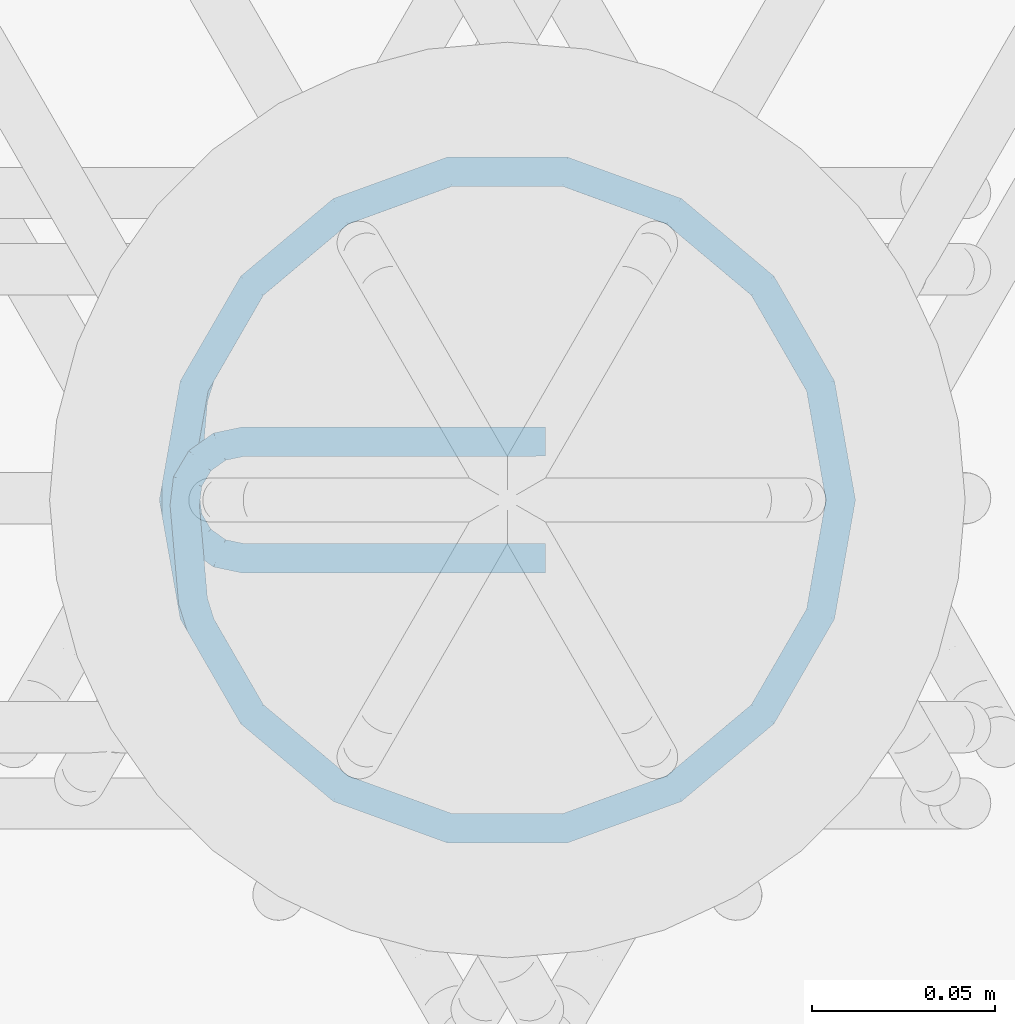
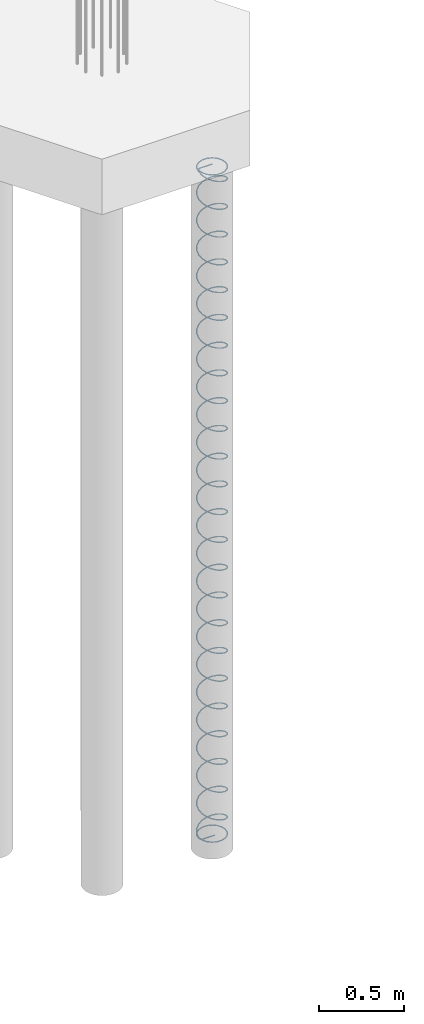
# One storey, part 14 of 23: 1 reinforcing bar.
"""IFC2X3 building model written with IfcOpenShell, lengths in metres."""

from ifc_helpers import new_model, entity, si_unit, direction, frame, origin, place, context, subcontext, project, spatial, shape, source, transform, mapped, element, save


model = new_model("IFC2X3")

# Units and contexts
model_context = context("Model", 3, precision=0.0, world=origin(), true_north=direction((0.0, 1.0)))
plan_context = context("Plan", 3, precision=0.0, world=origin(), true_north=direction((0.0, 1.0)))
body_context = subcontext(model_context, "Body", "Model", "MODEL_VIEW", scale=1.0)
ifc_project = project(units=[si_unit("LENGTHUNIT", "METRE"), si_unit("AREAUNIT", "SQUARE_METRE"), si_unit("VOLUMEUNIT", "CUBIC_METRE"), si_unit("PLANEANGLEUNIT", "RADIAN"), si_unit("THERMODYNAMICTEMPERATUREUNIT", "DEGREE_CELSIUS"), si_unit("FORCEUNIT", "NEWTON"), si_unit("MASSUNIT", "GRAM", prefix="KILO")], contexts=[model_context, plan_context])

# Site, building, storey
placement = place(None, origin())
site = spatial("IfcSite", under=ifc_project, at=placement, Name="Default Site", CompositionType="ELEMENT")
building = spatial("IfcBuilding", under=site, at=placement, Name="Default Building", CompositionType="ELEMENT")
storey_placement = place(placement, frame((0.0, 0.0, 0.0), z_axis=(1.0, 0.0, 0.0), x_axis=(0.0, 0.0, 1.0)))
storey = spatial("IfcBuildingStorey", under=building, at=storey_placement, Name="Piano 0", CompositionType="ELEMENT", Elevation=0.0)

# Reinforcing bar
shared_shape = source(origin(), body_context, None, "AdvancedSweptSolid", [
    entity("IfcSweptDiskSolid", entity("IfcCompositeCurve", [entity("IfcCompositeCurveSegment", "CONTINUOUS", True, entity("IfcPolyline", [entity("IfcCartesianPoint", [0.0, 0.0, 0.0]), entity("IfcCartesianPoint", [-0.08255, 0.0, 0.0]), entity("IfcCartesianPoint", [-0.088992, -0.001354, -1.3e-05]), entity("IfcCartesianPoint", [-0.094343, -0.005186, -4.9e-05]), entity("IfcCartesianPoint", [-0.097699, -0.010849, -0.000103]), entity("IfcCartesianPoint", [-0.09849, -0.017383, -0.000164]), entity("IfcCartesianPoint", [-0.096222, -0.043503, -0.000411]), entity("IfcCartesianPoint", [-0.094139, -0.050118, -0.000494]), entity("IfcCartesianPoint", [-0.080113, -0.074411, -0.000889]), entity("IfcCartesianPoint", [-0.055903, -0.094726, -0.001333]), entity("IfcCartesianPoint", [-0.026205, -0.105535, -0.001778]), entity("IfcCartesianPoint", [0.005399, -0.105535, -0.002222]), entity("IfcCartesianPoint", [0.035097, -0.094726, -0.002667]), entity("IfcCartesianPoint", [0.059307, -0.074411, -0.003111]), entity("IfcCartesianPoint", [0.075109, -0.047042, -0.003556]), entity("IfcCartesianPoint", [0.080597, -0.015918, -0.004]), entity("IfcCartesianPoint", [0.075109, 0.015206, -0.004444]), entity("IfcCartesianPoint", [0.059307, 0.042576, -0.004889]), entity("IfcCartesianPoint", [0.035097, 0.062891, -0.005333]), entity("IfcCartesianPoint", [0.005399, 0.0737, -0.005778]), entity("IfcCartesianPoint", [-0.026205, 0.0737, -0.006222]), entity("IfcCartesianPoint", [-0.055903, 0.062891, -0.006667]), entity("IfcCartesianPoint", [-0.080113, 0.042576, -0.007111]), entity("IfcCartesianPoint", [-0.095915, 0.015206, -0.007556]), entity("IfcCartesianPoint", [-0.100736, -0.012136, -0.007946]), entity("IfcCartesianPoint", [-0.100774, -0.019485, -0.009274]), entity("IfcCartesianPoint", [-0.095915, -0.047042, -0.019111]), entity("IfcCartesianPoint", [-0.080113, -0.074411, -0.030222]), entity("IfcCartesianPoint", [-0.055903, -0.094726, -0.041333]), entity("IfcCartesianPoint", [-0.026205, -0.105535, -0.052444]), entity("IfcCartesianPoint", [0.005399, -0.105535, -0.063556]), entity("IfcCartesianPoint", [0.035097, -0.094726, -0.074667]), entity("IfcCartesianPoint", [0.059307, -0.074411, -0.085778]), entity("IfcCartesianPoint", [0.075109, -0.047042, -0.096889]), entity("IfcCartesianPoint", [0.080597, -0.015918, -0.108]), entity("IfcCartesianPoint", [0.075109, 0.015206, -0.119111]), entity("IfcCartesianPoint", [0.059307, 0.042576, -0.130222]), entity("IfcCartesianPoint", [0.035097, 0.062891, -0.141333]), entity("IfcCartesianPoint", [0.005399, 0.0737, -0.152444]), entity("IfcCartesianPoint", [-0.026205, 0.0737, -0.163556]), entity("IfcCartesianPoint", [-0.055903, 0.062891, -0.174667]), entity("IfcCartesianPoint", [-0.080113, 0.042576, -0.185778]), entity("IfcCartesianPoint", [-0.095915, 0.015206, -0.196889]), entity("IfcCartesianPoint", [-0.101403, -0.015918, -0.208]), entity("IfcCartesianPoint", [-0.095915, -0.047042, -0.219111]), entity("IfcCartesianPoint", [-0.080113, -0.074411, -0.230222]), entity("IfcCartesianPoint", [-0.055903, -0.094726, -0.241333]), entity("IfcCartesianPoint", [-0.026205, -0.105535, -0.252444]), entity("IfcCartesianPoint", [0.005399, -0.105535, -0.263556]), entity("IfcCartesianPoint", [0.035097, -0.094726, -0.274667]), entity("IfcCartesianPoint", [0.059307, -0.074411, -0.285778]), entity("IfcCartesianPoint", [0.075109, -0.047042, -0.296889]), entity("IfcCartesianPoint", [0.080597, -0.015918, -0.308]), entity("IfcCartesianPoint", [0.075109, 0.015206, -0.319111]), entity("IfcCartesianPoint", [0.059307, 0.042576, -0.330222]), entity("IfcCartesianPoint", [0.035097, 0.062891, -0.341333]), entity("IfcCartesianPoint", [0.005399, 0.0737, -0.352444]), entity("IfcCartesianPoint", [-0.026205, 0.0737, -0.363556]), entity("IfcCartesianPoint", [-0.055903, 0.062891, -0.374667]), entity("IfcCartesianPoint", [-0.080113, 0.042576, -0.385778]), entity("IfcCartesianPoint", [-0.095915, 0.015206, -0.396889]), entity("IfcCartesianPoint", [-0.101403, -0.015918, -0.408]), entity("IfcCartesianPoint", [-0.095915, -0.047042, -0.419111]), entity("IfcCartesianPoint", [-0.080113, -0.074411, -0.430222]), entity("IfcCartesianPoint", [-0.055903, -0.094726, -0.441333]), entity("IfcCartesianPoint", [-0.026205, -0.105535, -0.452444]), entity("IfcCartesianPoint", [0.005399, -0.105535, -0.463556]), entity("IfcCartesianPoint", [0.035097, -0.094726, -0.474667]), entity("IfcCartesianPoint", [0.059307, -0.074411, -0.485778]), entity("IfcCartesianPoint", [0.075109, -0.047042, -0.496889]), entity("IfcCartesianPoint", [0.080597, -0.015918, -0.508]), entity("IfcCartesianPoint", [0.075109, 0.015206, -0.519111]), entity("IfcCartesianPoint", [0.059307, 0.042576, -0.530222]), entity("IfcCartesianPoint", [0.035097, 0.062891, -0.541333]), entity("IfcCartesianPoint", [0.005399, 0.0737, -0.552444]), entity("IfcCartesianPoint", [-0.026205, 0.0737, -0.563556]), entity("IfcCartesianPoint", [-0.055903, 0.062891, -0.574667]), entity("IfcCartesianPoint", [-0.080113, 0.042576, -0.585778]), entity("IfcCartesianPoint", [-0.095915, 0.015206, -0.596889]), entity("IfcCartesianPoint", [-0.101403, -0.015918, -0.608]), entity("IfcCartesianPoint", [-0.095915, -0.047042, -0.619111]), entity("IfcCartesianPoint", [-0.080113, -0.074411, -0.630222]), entity("IfcCartesianPoint", [-0.055903, -0.094726, -0.641333]), entity("IfcCartesianPoint", [-0.026205, -0.105535, -0.652444]), entity("IfcCartesianPoint", [0.005399, -0.105535, -0.663556]), entity("IfcCartesianPoint", [0.035097, -0.094726, -0.674667]), entity("IfcCartesianPoint", [0.059307, -0.074411, -0.685778]), entity("IfcCartesianPoint", [0.075109, -0.047042, -0.696889]), entity("IfcCartesianPoint", [0.080597, -0.015918, -0.708]), entity("IfcCartesianPoint", [0.075109, 0.015206, -0.719111]), entity("IfcCartesianPoint", [0.059307, 0.042576, -0.730222]), entity("IfcCartesianPoint", [0.035097, 0.062891, -0.741333]), entity("IfcCartesianPoint", [0.005399, 0.0737, -0.752444]), entity("IfcCartesianPoint", [-0.026205, 0.0737, -0.763556]), entity("IfcCartesianPoint", [-0.055903, 0.062891, -0.774667]), entity("IfcCartesianPoint", [-0.080113, 0.042576, -0.785778]), entity("IfcCartesianPoint", [-0.095915, 0.015206, -0.796889]), entity("IfcCartesianPoint", [-0.101403, -0.015918, -0.808]), entity("IfcCartesianPoint", [-0.095915, -0.047042, -0.819111]), entity("IfcCartesianPoint", [-0.080113, -0.074411, -0.830222]), entity("IfcCartesianPoint", [-0.055903, -0.094726, -0.841333]), entity("IfcCartesianPoint", [-0.026205, -0.105535, -0.852444]), entity("IfcCartesianPoint", [0.005399, -0.105535, -0.863556]), entity("IfcCartesianPoint", [0.035097, -0.094726, -0.874667]), entity("IfcCartesianPoint", [0.059307, -0.074411, -0.885778]), entity("IfcCartesianPoint", [0.075109, -0.047042, -0.896889]), entity("IfcCartesianPoint", [0.080597, -0.015918, -0.908]), entity("IfcCartesianPoint", [0.075109, 0.015206, -0.919111]), entity("IfcCartesianPoint", [0.059307, 0.042576, -0.930222]), entity("IfcCartesianPoint", [0.035097, 0.062891, -0.941333]), entity("IfcCartesianPoint", [0.005399, 0.0737, -0.952444]), entity("IfcCartesianPoint", [-0.026205, 0.0737, -0.963556]), entity("IfcCartesianPoint", [-0.055903, 0.062891, -0.974667]), entity("IfcCartesianPoint", [-0.080113, 0.042576, -0.985778]), entity("IfcCartesianPoint", [-0.095915, 0.015206, -0.996889]), entity("IfcCartesianPoint", [-0.101403, -0.015918, -1.008]), entity("IfcCartesianPoint", [-0.095915, -0.047042, -1.019111]), entity("IfcCartesianPoint", [-0.080113, -0.074411, -1.030222]), entity("IfcCartesianPoint", [-0.055903, -0.094726, -1.041333]), entity("IfcCartesianPoint", [-0.026205, -0.105535, -1.052444]), entity("IfcCartesianPoint", [0.005399, -0.105535, -1.063556]), entity("IfcCartesianPoint", [0.035097, -0.094726, -1.074667]), entity("IfcCartesianPoint", [0.059307, -0.074411, -1.085778]), entity("IfcCartesianPoint", [0.075109, -0.047042, -1.096889]), entity("IfcCartesianPoint", [0.080597, -0.015918, -1.108]), entity("IfcCartesianPoint", [0.075109, 0.015206, -1.119111]), entity("IfcCartesianPoint", [0.059307, 0.042576, -1.130222]), entity("IfcCartesianPoint", [0.035097, 0.062891, -1.141333]), entity("IfcCartesianPoint", [0.005399, 0.0737, -1.152444]), entity("IfcCartesianPoint", [-0.026205, 0.0737, -1.163556]), entity("IfcCartesianPoint", [-0.055903, 0.062891, -1.174667]), entity("IfcCartesianPoint", [-0.080113, 0.042576, -1.185778]), entity("IfcCartesianPoint", [-0.095915, 0.015206, -1.196889]), entity("IfcCartesianPoint", [-0.101403, -0.015918, -1.208]), entity("IfcCartesianPoint", [-0.095915, -0.047042, -1.219111]), entity("IfcCartesianPoint", [-0.080113, -0.074411, -1.230222]), entity("IfcCartesianPoint", [-0.055903, -0.094726, -1.241333]), entity("IfcCartesianPoint", [-0.026205, -0.105535, -1.252444]), entity("IfcCartesianPoint", [0.005399, -0.105535, -1.263556]), entity("IfcCartesianPoint", [0.035097, -0.094726, -1.274667]), entity("IfcCartesianPoint", [0.059307, -0.074411, -1.285778]), entity("IfcCartesianPoint", [0.075109, -0.047042, -1.296889]), entity("IfcCartesianPoint", [0.080597, -0.015918, -1.308]), entity("IfcCartesianPoint", [0.075109, 0.015206, -1.319111]), entity("IfcCartesianPoint", [0.059307, 0.042576, -1.330222]), entity("IfcCartesianPoint", [0.035097, 0.062891, -1.341333]), entity("IfcCartesianPoint", [0.005399, 0.0737, -1.352444]), entity("IfcCartesianPoint", [-0.026205, 0.0737, -1.363556]), entity("IfcCartesianPoint", [-0.055903, 0.062891, -1.374667]), entity("IfcCartesianPoint", [-0.080113, 0.042576, -1.385778]), entity("IfcCartesianPoint", [-0.095915, 0.015206, -1.396889]), entity("IfcCartesianPoint", [-0.101403, -0.015918, -1.408]), entity("IfcCartesianPoint", [-0.095915, -0.047042, -1.419111]), entity("IfcCartesianPoint", [-0.080113, -0.074411, -1.430222]), entity("IfcCartesianPoint", [-0.055903, -0.094726, -1.441333]), entity("IfcCartesianPoint", [-0.026205, -0.105535, -1.452444]), entity("IfcCartesianPoint", [0.005399, -0.105535, -1.463556]), entity("IfcCartesianPoint", [0.035097, -0.094726, -1.474667]), entity("IfcCartesianPoint", [0.059307, -0.074411, -1.485778]), entity("IfcCartesianPoint", [0.075109, -0.047042, -1.496889]), entity("IfcCartesianPoint", [0.080597, -0.015918, -1.508]), entity("IfcCartesianPoint", [0.075109, 0.015206, -1.519111]), entity("IfcCartesianPoint", [0.059307, 0.042576, -1.530222]), entity("IfcCartesianPoint", [0.035097, 0.062891, -1.541333]), entity("IfcCartesianPoint", [0.005399, 0.0737, -1.552444]), entity("IfcCartesianPoint", [-0.026205, 0.0737, -1.563556]), entity("IfcCartesianPoint", [-0.055903, 0.062891, -1.574667]), entity("IfcCartesianPoint", [-0.080113, 0.042576, -1.585778]), entity("IfcCartesianPoint", [-0.095915, 0.015206, -1.596889]), entity("IfcCartesianPoint", [-0.101403, -0.015918, -1.608]), entity("IfcCartesianPoint", [-0.095915, -0.047042, -1.619111]), entity("IfcCartesianPoint", [-0.080113, -0.074411, -1.630222]), entity("IfcCartesianPoint", [-0.055903, -0.094726, -1.641333]), entity("IfcCartesianPoint", [-0.026205, -0.105535, -1.652444]), entity("IfcCartesianPoint", [0.005399, -0.105535, -1.663556]), entity("IfcCartesianPoint", [0.035097, -0.094726, -1.674667]), entity("IfcCartesianPoint", [0.059307, -0.074411, -1.685778]), entity("IfcCartesianPoint", [0.075109, -0.047042, -1.696889]), entity("IfcCartesianPoint", [0.080597, -0.015918, -1.708]), entity("IfcCartesianPoint", [0.075109, 0.015206, -1.719111]), entity("IfcCartesianPoint", [0.059307, 0.042576, -1.730222]), entity("IfcCartesianPoint", [0.035097, 0.062891, -1.741333]), entity("IfcCartesianPoint", [0.005399, 0.0737, -1.752444]), entity("IfcCartesianPoint", [-0.026205, 0.0737, -1.763556]), entity("IfcCartesianPoint", [-0.055903, 0.062891, -1.774667]), entity("IfcCartesianPoint", [-0.080113, 0.042576, -1.785778]), entity("IfcCartesianPoint", [-0.095915, 0.015206, -1.796889]), entity("IfcCartesianPoint", [-0.101403, -0.015918, -1.808]), entity("IfcCartesianPoint", [-0.095915, -0.047042, -1.819111]), entity("IfcCartesianPoint", [-0.080113, -0.074411, -1.830222]), entity("IfcCartesianPoint", [-0.055903, -0.094726, -1.841333]), entity("IfcCartesianPoint", [-0.026205, -0.105535, -1.852444]), entity("IfcCartesianPoint", [0.005399, -0.105535, -1.863556]), entity("IfcCartesianPoint", [0.035097, -0.094726, -1.874667]), entity("IfcCartesianPoint", [0.059307, -0.074411, -1.885778]), entity("IfcCartesianPoint", [0.075109, -0.047042, -1.896889]), entity("IfcCartesianPoint", [0.080597, -0.015918, -1.908]), entity("IfcCartesianPoint", [0.075109, 0.015206, -1.919111]), entity("IfcCartesianPoint", [0.059307, 0.042576, -1.930222]), entity("IfcCartesianPoint", [0.035097, 0.062891, -1.941333]), entity("IfcCartesianPoint", [0.005399, 0.0737, -1.952444]), entity("IfcCartesianPoint", [-0.026205, 0.0737, -1.963556]), entity("IfcCartesianPoint", [-0.055903, 0.062891, -1.974667]), entity("IfcCartesianPoint", [-0.080113, 0.042576, -1.985778]), entity("IfcCartesianPoint", [-0.095915, 0.015206, -1.996889]), entity("IfcCartesianPoint", [-0.101403, -0.015918, -2.008]), entity("IfcCartesianPoint", [-0.095915, -0.047042, -2.019111]), entity("IfcCartesianPoint", [-0.080113, -0.074411, -2.030222]), entity("IfcCartesianPoint", [-0.055903, -0.094726, -2.041333]), entity("IfcCartesianPoint", [-0.026205, -0.105535, -2.052444]), entity("IfcCartesianPoint", [0.005399, -0.105535, -2.063556]), entity("IfcCartesianPoint", [0.035097, -0.094726, -2.074667]), entity("IfcCartesianPoint", [0.059307, -0.074411, -2.085778]), entity("IfcCartesianPoint", [0.075109, -0.047042, -2.096889]), entity("IfcCartesianPoint", [0.080597, -0.015918, -2.108]), entity("IfcCartesianPoint", [0.075109, 0.015206, -2.119111]), entity("IfcCartesianPoint", [0.059307, 0.042576, -2.130222]), entity("IfcCartesianPoint", [0.035097, 0.062891, -2.141333]), entity("IfcCartesianPoint", [0.005399, 0.0737, -2.152444]), entity("IfcCartesianPoint", [-0.026205, 0.0737, -2.163556]), entity("IfcCartesianPoint", [-0.055903, 0.062891, -2.174667]), entity("IfcCartesianPoint", [-0.080113, 0.042576, -2.185778]), entity("IfcCartesianPoint", [-0.095915, 0.015206, -2.196889]), entity("IfcCartesianPoint", [-0.101403, -0.015918, -2.208]), entity("IfcCartesianPoint", [-0.095915, -0.047042, -2.219111]), entity("IfcCartesianPoint", [-0.080113, -0.074411, -2.230222]), entity("IfcCartesianPoint", [-0.055903, -0.094726, -2.241333]), entity("IfcCartesianPoint", [-0.026205, -0.105535, -2.252444]), entity("IfcCartesianPoint", [0.005399, -0.105535, -2.263556]), entity("IfcCartesianPoint", [0.035097, -0.094726, -2.274667]), entity("IfcCartesianPoint", [0.059307, -0.074411, -2.285778]), entity("IfcCartesianPoint", [0.075109, -0.047042, -2.296889]), entity("IfcCartesianPoint", [0.080597, -0.015918, -2.308]), entity("IfcCartesianPoint", [0.075109, 0.015206, -2.319111]), entity("IfcCartesianPoint", [0.059307, 0.042576, -2.330222]), entity("IfcCartesianPoint", [0.035097, 0.062891, -2.341333]), entity("IfcCartesianPoint", [0.005399, 0.0737, -2.352444]), entity("IfcCartesianPoint", [-0.026205, 0.0737, -2.363556]), entity("IfcCartesianPoint", [-0.055903, 0.062891, -2.374667]), entity("IfcCartesianPoint", [-0.080113, 0.042576, -2.385778]), entity("IfcCartesianPoint", [-0.095915, 0.015206, -2.396889]), entity("IfcCartesianPoint", [-0.101403, -0.015918, -2.408]), entity("IfcCartesianPoint", [-0.095915, -0.047042, -2.419111]), entity("IfcCartesianPoint", [-0.080113, -0.074411, -2.430222]), entity("IfcCartesianPoint", [-0.055903, -0.094726, -2.441333]), entity("IfcCartesianPoint", [-0.026205, -0.105535, -2.452444]), entity("IfcCartesianPoint", [0.005399, -0.105535, -2.463556]), entity("IfcCartesianPoint", [0.035097, -0.094726, -2.474667]), entity("IfcCartesianPoint", [0.059307, -0.074411, -2.485778]), entity("IfcCartesianPoint", [0.075109, -0.047042, -2.496889]), entity("IfcCartesianPoint", [0.080597, -0.015918, -2.508]), entity("IfcCartesianPoint", [0.075109, 0.015206, -2.519111]), entity("IfcCartesianPoint", [0.059307, 0.042576, -2.530222]), entity("IfcCartesianPoint", [0.035097, 0.062891, -2.541333]), entity("IfcCartesianPoint", [0.005399, 0.0737, -2.552444]), entity("IfcCartesianPoint", [-0.026205, 0.0737, -2.563556]), entity("IfcCartesianPoint", [-0.055903, 0.062891, -2.574667]), entity("IfcCartesianPoint", [-0.080113, 0.042576, -2.585778]), entity("IfcCartesianPoint", [-0.095915, 0.015206, -2.596889]), entity("IfcCartesianPoint", [-0.101403, -0.015918, -2.608]), entity("IfcCartesianPoint", [-0.095915, -0.047042, -2.619111]), entity("IfcCartesianPoint", [-0.080113, -0.074411, -2.630222]), entity("IfcCartesianPoint", [-0.055903, -0.094726, -2.641333]), entity("IfcCartesianPoint", [-0.026205, -0.105535, -2.652444]), entity("IfcCartesianPoint", [0.005399, -0.105535, -2.663556]), entity("IfcCartesianPoint", [0.035097, -0.094726, -2.674667]), entity("IfcCartesianPoint", [0.059307, -0.074411, -2.685778]), entity("IfcCartesianPoint", [0.075109, -0.047042, -2.696889]), entity("IfcCartesianPoint", [0.080597, -0.015918, -2.708]), entity("IfcCartesianPoint", [0.075109, 0.015206, -2.719111]), entity("IfcCartesianPoint", [0.059307, 0.042576, -2.730222]), entity("IfcCartesianPoint", [0.035097, 0.062891, -2.741333]), entity("IfcCartesianPoint", [0.005399, 0.0737, -2.752444]), entity("IfcCartesianPoint", [-0.026205, 0.0737, -2.763556]), entity("IfcCartesianPoint", [-0.055903, 0.062891, -2.774667]), entity("IfcCartesianPoint", [-0.080113, 0.042576, -2.785778]), entity("IfcCartesianPoint", [-0.095915, 0.015206, -2.796889]), entity("IfcCartesianPoint", [-0.101403, -0.015918, -2.808]), entity("IfcCartesianPoint", [-0.095915, -0.047042, -2.819111]), entity("IfcCartesianPoint", [-0.080113, -0.074411, -2.830222]), entity("IfcCartesianPoint", [-0.055903, -0.094726, -2.841333]), entity("IfcCartesianPoint", [-0.026205, -0.105535, -2.852444]), entity("IfcCartesianPoint", [0.005399, -0.105535, -2.863556]), entity("IfcCartesianPoint", [0.035097, -0.094726, -2.874667]), entity("IfcCartesianPoint", [0.059307, -0.074411, -2.885778]), entity("IfcCartesianPoint", [0.075109, -0.047042, -2.896889]), entity("IfcCartesianPoint", [0.080597, -0.015918, -2.908]), entity("IfcCartesianPoint", [0.075109, 0.015206, -2.919111]), entity("IfcCartesianPoint", [0.059307, 0.042576, -2.930222]), entity("IfcCartesianPoint", [0.035097, 0.062891, -2.941333]), entity("IfcCartesianPoint", [0.005399, 0.0737, -2.952444]), entity("IfcCartesianPoint", [-0.026205, 0.0737, -2.963556]), entity("IfcCartesianPoint", [-0.055903, 0.062891, -2.974667]), entity("IfcCartesianPoint", [-0.080113, 0.042576, -2.985778]), entity("IfcCartesianPoint", [-0.095915, 0.015206, -2.996889]), entity("IfcCartesianPoint", [-0.101403, -0.015918, -3.008]), entity("IfcCartesianPoint", [-0.095915, -0.047042, -3.019111]), entity("IfcCartesianPoint", [-0.080113, -0.074411, -3.030222]), entity("IfcCartesianPoint", [-0.055903, -0.094726, -3.041333]), entity("IfcCartesianPoint", [-0.026205, -0.105535, -3.052444]), entity("IfcCartesianPoint", [0.005399, -0.105535, -3.063556]), entity("IfcCartesianPoint", [0.035097, -0.094726, -3.074667]), entity("IfcCartesianPoint", [0.059307, -0.074411, -3.085778]), entity("IfcCartesianPoint", [0.075109, -0.047042, -3.096889]), entity("IfcCartesianPoint", [0.080597, -0.015918, -3.108]), entity("IfcCartesianPoint", [0.075109, 0.015206, -3.119111]), entity("IfcCartesianPoint", [0.059307, 0.042576, -3.130222]), entity("IfcCartesianPoint", [0.035097, 0.062891, -3.141333]), entity("IfcCartesianPoint", [0.005399, 0.0737, -3.152444]), entity("IfcCartesianPoint", [-0.026205, 0.0737, -3.163556]), entity("IfcCartesianPoint", [-0.055903, 0.062891, -3.174667]), entity("IfcCartesianPoint", [-0.080113, 0.042576, -3.185778]), entity("IfcCartesianPoint", [-0.095915, 0.015206, -3.196889]), entity("IfcCartesianPoint", [-0.101403, -0.015918, -3.208]), entity("IfcCartesianPoint", [-0.095915, -0.047042, -3.219111]), entity("IfcCartesianPoint", [-0.080113, -0.074411, -3.230222]), entity("IfcCartesianPoint", [-0.055903, -0.094726, -3.241333]), entity("IfcCartesianPoint", [-0.026205, -0.105535, -3.252444]), entity("IfcCartesianPoint", [0.005399, -0.105535, -3.263556]), entity("IfcCartesianPoint", [0.035097, -0.094726, -3.274667]), entity("IfcCartesianPoint", [0.059307, -0.074411, -3.285778]), entity("IfcCartesianPoint", [0.075109, -0.047042, -3.296889]), entity("IfcCartesianPoint", [0.080597, -0.015918, -3.308]), entity("IfcCartesianPoint", [0.075109, 0.015206, -3.319111]), entity("IfcCartesianPoint", [0.059307, 0.042576, -3.330222]), entity("IfcCartesianPoint", [0.035097, 0.062891, -3.341333]), entity("IfcCartesianPoint", [0.005399, 0.0737, -3.352444]), entity("IfcCartesianPoint", [-0.026205, 0.0737, -3.363556]), entity("IfcCartesianPoint", [-0.055903, 0.062891, -3.374667]), entity("IfcCartesianPoint", [-0.080113, 0.042576, -3.385778]), entity("IfcCartesianPoint", [-0.095915, 0.015206, -3.396889]), entity("IfcCartesianPoint", [-0.101403, -0.015918, -3.408]), entity("IfcCartesianPoint", [-0.095915, -0.047042, -3.419111]), entity("IfcCartesianPoint", [-0.080113, -0.074411, -3.430222]), entity("IfcCartesianPoint", [-0.055903, -0.094726, -3.441333]), entity("IfcCartesianPoint", [-0.026205, -0.105535, -3.452444]), entity("IfcCartesianPoint", [0.005399, -0.105535, -3.463556]), entity("IfcCartesianPoint", [0.035097, -0.094726, -3.474667]), entity("IfcCartesianPoint", [0.059307, -0.074411, -3.485778]), entity("IfcCartesianPoint", [0.075109, -0.047042, -3.496889]), entity("IfcCartesianPoint", [0.080597, -0.015918, -3.508]), entity("IfcCartesianPoint", [0.075109, 0.015206, -3.519111]), entity("IfcCartesianPoint", [0.059307, 0.042576, -3.530222]), entity("IfcCartesianPoint", [0.035097, 0.062891, -3.541333]), entity("IfcCartesianPoint", [0.005399, 0.0737, -3.552444]), entity("IfcCartesianPoint", [-0.026205, 0.0737, -3.563556]), entity("IfcCartesianPoint", [-0.055903, 0.062891, -3.574667]), entity("IfcCartesianPoint", [-0.080113, 0.042576, -3.585778]), entity("IfcCartesianPoint", [-0.095915, 0.015206, -3.596889]), entity("IfcCartesianPoint", [-0.101403, -0.015918, -3.608]), entity("IfcCartesianPoint", [-0.095915, -0.047042, -3.619111]), entity("IfcCartesianPoint", [-0.080113, -0.074411, -3.630222]), entity("IfcCartesianPoint", [-0.055903, -0.094726, -3.641333]), entity("IfcCartesianPoint", [-0.026205, -0.105535, -3.652444]), entity("IfcCartesianPoint", [0.005399, -0.105535, -3.663556]), entity("IfcCartesianPoint", [0.035097, -0.094726, -3.674667]), entity("IfcCartesianPoint", [0.059307, -0.074411, -3.685778]), entity("IfcCartesianPoint", [0.075109, -0.047042, -3.696889]), entity("IfcCartesianPoint", [0.080597, -0.015918, -3.708]), entity("IfcCartesianPoint", [0.075109, 0.015206, -3.719111]), entity("IfcCartesianPoint", [0.059307, 0.042576, -3.730222]), entity("IfcCartesianPoint", [0.035097, 0.062891, -3.741333]), entity("IfcCartesianPoint", [0.005399, 0.0737, -3.752444]), entity("IfcCartesianPoint", [-0.026205, 0.0737, -3.763556]), entity("IfcCartesianPoint", [-0.055903, 0.062891, -3.774667]), entity("IfcCartesianPoint", [-0.080113, 0.042576, -3.785778]), entity("IfcCartesianPoint", [-0.095915, 0.015206, -3.796889]), entity("IfcCartesianPoint", [-0.101403, -0.015918, -3.808]), entity("IfcCartesianPoint", [-0.095915, -0.047042, -3.819111]), entity("IfcCartesianPoint", [-0.080113, -0.074411, -3.830222]), entity("IfcCartesianPoint", [-0.055903, -0.094726, -3.841333]), entity("IfcCartesianPoint", [-0.026205, -0.105535, -3.852444]), entity("IfcCartesianPoint", [0.005399, -0.105535, -3.863556]), entity("IfcCartesianPoint", [0.035097, -0.094726, -3.874667]), entity("IfcCartesianPoint", [0.059307, -0.074411, -3.885778]), entity("IfcCartesianPoint", [0.075109, -0.047042, -3.896889]), entity("IfcCartesianPoint", [0.080597, -0.015918, -3.908]), entity("IfcCartesianPoint", [0.075109, 0.015206, -3.919111]), entity("IfcCartesianPoint", [0.059307, 0.042576, -3.930222]), entity("IfcCartesianPoint", [0.035097, 0.062891, -3.941333]), entity("IfcCartesianPoint", [0.005399, 0.0737, -3.952444]), entity("IfcCartesianPoint", [-0.026205, 0.0737, -3.963556]), entity("IfcCartesianPoint", [-0.055903, 0.062891, -3.974667]), entity("IfcCartesianPoint", [-0.080113, 0.042576, -3.985778]), entity("IfcCartesianPoint", [-0.095915, 0.015206, -3.996889]), entity("IfcCartesianPoint", [-0.101403, -0.015918, -4.008]), entity("IfcCartesianPoint", [-0.095915, -0.047042, -4.019111]), entity("IfcCartesianPoint", [-0.080113, -0.074411, -4.030222]), entity("IfcCartesianPoint", [-0.055903, -0.094726, -4.041333]), entity("IfcCartesianPoint", [-0.026205, -0.105535, -4.052444]), entity("IfcCartesianPoint", [0.005399, -0.105535, -4.063556]), entity("IfcCartesianPoint", [0.035097, -0.094726, -4.074667]), entity("IfcCartesianPoint", [0.059307, -0.074411, -4.085778]), entity("IfcCartesianPoint", [0.075109, -0.047042, -4.096889]), entity("IfcCartesianPoint", [0.080597, -0.015918, -4.108]), entity("IfcCartesianPoint", [0.075109, 0.015206, -4.119111]), entity("IfcCartesianPoint", [0.059307, 0.042576, -4.130222]), entity("IfcCartesianPoint", [0.035097, 0.062891, -4.141333]), entity("IfcCartesianPoint", [0.005399, 0.0737, -4.152444]), entity("IfcCartesianPoint", [-0.026205, 0.0737, -4.163556]), entity("IfcCartesianPoint", [-0.055903, 0.062891, -4.174667]), entity("IfcCartesianPoint", [-0.080113, 0.042576, -4.185778]), entity("IfcCartesianPoint", [-0.095915, 0.015206, -4.196889]), entity("IfcCartesianPoint", [-0.101403, -0.015918, -4.208]), entity("IfcCartesianPoint", [-0.095915, -0.047042, -4.219111]), entity("IfcCartesianPoint", [-0.080113, -0.074411, -4.230222]), entity("IfcCartesianPoint", [-0.055903, -0.094726, -4.241333]), entity("IfcCartesianPoint", [-0.026205, -0.105535, -4.252444]), entity("IfcCartesianPoint", [0.005399, -0.105535, -4.263556]), entity("IfcCartesianPoint", [0.035097, -0.094726, -4.274667]), entity("IfcCartesianPoint", [0.059307, -0.074411, -4.285778]), entity("IfcCartesianPoint", [0.075109, -0.047042, -4.296889]), entity("IfcCartesianPoint", [0.080597, -0.015918, -4.308]), entity("IfcCartesianPoint", [0.075109, 0.015206, -4.319111]), entity("IfcCartesianPoint", [0.059307, 0.042576, -4.330222]), entity("IfcCartesianPoint", [0.035097, 0.062891, -4.341333]), entity("IfcCartesianPoint", [0.005399, 0.0737, -4.352444]), entity("IfcCartesianPoint", [-0.026205, 0.0737, -4.363556]), entity("IfcCartesianPoint", [-0.055903, 0.062891, -4.374667]), entity("IfcCartesianPoint", [-0.080113, 0.042576, -4.385778]), entity("IfcCartesianPoint", [-0.095915, 0.015206, -4.396889]), entity("IfcCartesianPoint", [-0.101403, -0.015918, -4.408]), entity("IfcCartesianPoint", [-0.095915, -0.047042, -4.419111]), entity("IfcCartesianPoint", [-0.080113, -0.074411, -4.430222]), entity("IfcCartesianPoint", [-0.055903, -0.094726, -4.441333]), entity("IfcCartesianPoint", [-0.026205, -0.105535, -4.452444]), entity("IfcCartesianPoint", [0.005399, -0.105535, -4.463556]), entity("IfcCartesianPoint", [0.035097, -0.094726, -4.474667]), entity("IfcCartesianPoint", [0.059307, -0.074411, -4.485778]), entity("IfcCartesianPoint", [0.075109, -0.047042, -4.496889]), entity("IfcCartesianPoint", [0.080597, -0.015918, -4.508]), entity("IfcCartesianPoint", [0.075109, 0.015206, -4.519111]), entity("IfcCartesianPoint", [0.059307, 0.042576, -4.530222]), entity("IfcCartesianPoint", [0.035097, 0.062891, -4.541333]), entity("IfcCartesianPoint", [0.005399, 0.0737, -4.552444]), entity("IfcCartesianPoint", [-0.026205, 0.0737, -4.563556]), entity("IfcCartesianPoint", [-0.055903, 0.062891, -4.574667]), entity("IfcCartesianPoint", [-0.080113, 0.042576, -4.585778]), entity("IfcCartesianPoint", [-0.095915, 0.015206, -4.596889]), entity("IfcCartesianPoint", [-0.101403, -0.015918, -4.608]), entity("IfcCartesianPoint", [-0.095915, -0.047042, -4.619111]), entity("IfcCartesianPoint", [-0.080113, -0.074411, -4.630222]), entity("IfcCartesianPoint", [-0.055903, -0.094726, -4.641333]), entity("IfcCartesianPoint", [-0.026205, -0.105535, -4.652444]), entity("IfcCartesianPoint", [0.005399, -0.105535, -4.663556]), entity("IfcCartesianPoint", [0.035097, -0.094726, -4.674667]), entity("IfcCartesianPoint", [0.059307, -0.074411, -4.685778]), entity("IfcCartesianPoint", [0.075109, -0.047042, -4.696889]), entity("IfcCartesianPoint", [0.080597, -0.015918, -4.708]), entity("IfcCartesianPoint", [0.075109, 0.015206, -4.719111]), entity("IfcCartesianPoint", [0.059307, 0.042576, -4.730222]), entity("IfcCartesianPoint", [0.035097, 0.062891, -4.741333]), entity("IfcCartesianPoint", [0.005399, 0.0737, -4.752444]), entity("IfcCartesianPoint", [-0.026205, 0.0737, -4.763556]), entity("IfcCartesianPoint", [-0.055903, 0.062891, -4.774667]), entity("IfcCartesianPoint", [-0.080113, 0.042576, -4.785778]), entity("IfcCartesianPoint", [-0.095915, 0.015206, -4.796889]), entity("IfcCartesianPoint", [-0.100774, -0.01235, -4.806726]), entity("IfcCartesianPoint", [-0.100736, -0.019699, -4.808054]), entity("IfcCartesianPoint", [-0.095915, -0.047042, -4.808444]), entity("IfcCartesianPoint", [-0.080113, -0.074411, -4.808889]), entity("IfcCartesianPoint", [-0.055903, -0.094726, -4.809333]), entity("IfcCartesianPoint", [-0.026205, -0.105535, -4.809778]), entity("IfcCartesianPoint", [0.005399, -0.105535, -4.810222]), entity("IfcCartesianPoint", [0.035097, -0.094726, -4.810667]), entity("IfcCartesianPoint", [0.059307, -0.074411, -4.811111]), entity("IfcCartesianPoint", [0.075109, -0.047042, -4.811556]), entity("IfcCartesianPoint", [0.080597, -0.015918, -4.812]), entity("IfcCartesianPoint", [0.075109, 0.015206, -4.812444]), entity("IfcCartesianPoint", [0.059307, 0.042576, -4.812889]), entity("IfcCartesianPoint", [0.035097, 0.062891, -4.813333]), entity("IfcCartesianPoint", [0.005399, 0.0737, -4.813778]), entity("IfcCartesianPoint", [-0.026205, 0.0737, -4.814222]), entity("IfcCartesianPoint", [-0.055903, 0.062891, -4.814667]), entity("IfcCartesianPoint", [-0.080113, 0.042576, -4.815111]), entity("IfcCartesianPoint", [-0.094139, 0.018282, -4.815506]), entity("IfcCartesianPoint", [-0.096222, 0.011667, -4.815589]), entity("IfcCartesianPoint", [-0.09849, -0.014452, -4.815836]), entity("IfcCartesianPoint", [-0.097699, -0.020986, -4.815897]), entity("IfcCartesianPoint", [-0.094343, -0.026649, -4.815951]), entity("IfcCartesianPoint", [-0.088992, -0.030481, -4.815987]), entity("IfcCartesianPoint", [-0.08255, -0.031835, -4.816]), entity("IfcCartesianPoint", [0.0, -0.031835, -4.816])]))], False), 0.004, 0.0, 0.0),
])
element("IfcReinforcingBar", 1, at=placement, inside=storey, Name="Arm Staffa; Palo:6 Filo:3 [Piano:0]", BarLength=15.841196, BarRole="SHEAR", BarSurface="TEXTURED", NominalDiameter=0.008, shapes=[
    shape(body_context, None, "MappedRepresentation", [mapped(shared_shape, transform((8.385403, -0.634082, -0.492)))]),
])

save(model, "model.ifc")
